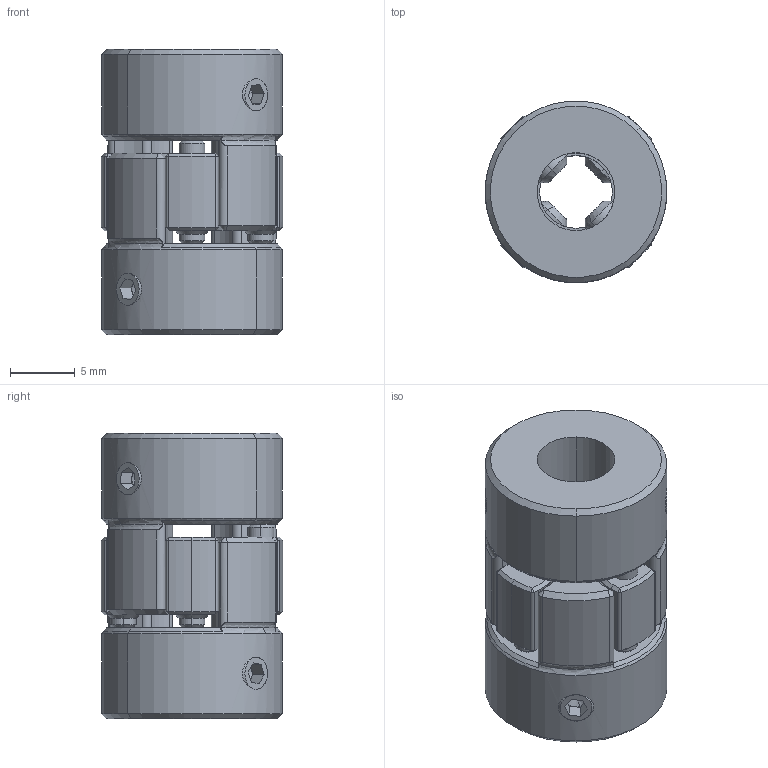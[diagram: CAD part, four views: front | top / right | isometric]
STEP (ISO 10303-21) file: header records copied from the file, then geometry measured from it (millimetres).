
FILE_DESCRIPTION (( 'STEP AP203' ), '1' );
FILE_NAME ('LF-D-D14L22-6-6.STEP', '2021-10-26T05:41:11', ( '' ), ( '' ), 'SwSTEP 2.0', 'SolidWorks 2018', '' );
FILE_SCHEMA (( 'CONFIG_CONTROL_DESIGN' ));
Length unit declared in the file: millimetre
Products named in the file (1): LF-D-D14L22-6-6
Bounding box: 14 x 14 x 22 mm (x, y, z)
Volume: 2588.3 mm3; surface area: 2170.4 mm2
Topology: 1 solids, 1 shells, 353 faces, 883 edges, 508 vertices
Faces by surface type: cone 164, cylinder 115, plane 66, torus 8
Entity records: 10819 total; most frequent: CARTESIAN_POINT 2236, DIRECTION 1931, ORIENTED_EDGE 1718, EDGE_CURVE 859, AXIS2_PLACEMENT_3D 776, VERTEX_POINT 508, CIRCLE 422, EDGE_LOOP 383
